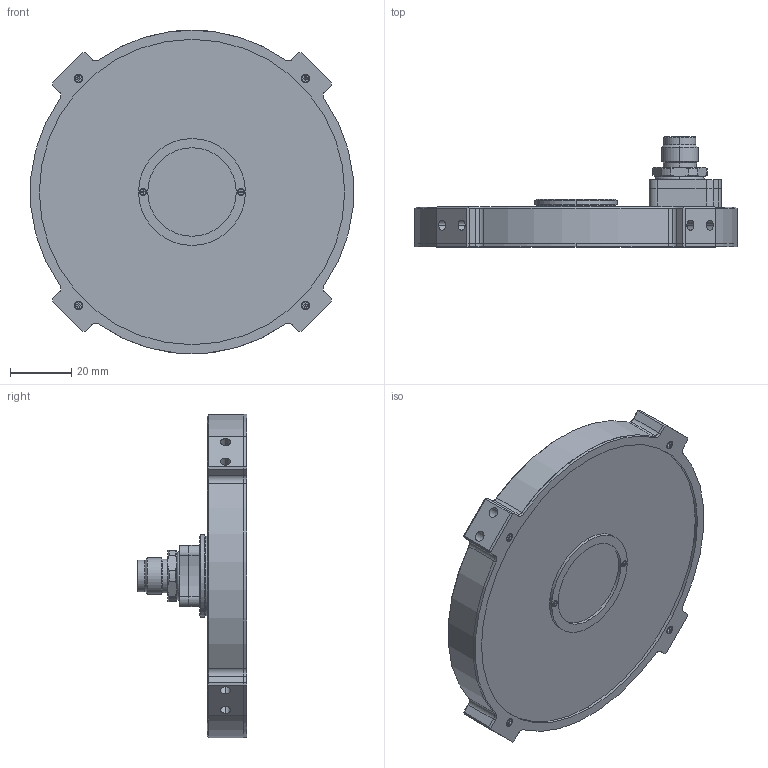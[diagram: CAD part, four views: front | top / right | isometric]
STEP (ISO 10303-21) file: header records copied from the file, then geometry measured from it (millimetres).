
FILE_DESCRIPTION (( 'STEP AP214' ), '1' );
FILE_NAME ('VRBP-10035-PL_Drawing_L1214A-A00102.SLDPRT.STEP', '2024-07-12T07:09:06', ( '' ), ( '' ), 'SwSTEP 2.0', 'SolidWorks 2018', '' );
FILE_SCHEMA (( 'AUTOMOTIVE_DESIGN' ));
Length unit declared in the file: millimetre
Products named in the file (1): VRBP-10035-PL_Drawing_L1214A-A00102.SLDPRT
Bounding box: 105.6 x 36 x 106 mm (x, y, z)
Surface area: 28743.2 mm2 (no closed solid volume)
Topology: 0 solids, 29 shells, 467 faces, 1382 edges, 934 vertices
Faces by surface type: plane 248, cylinder 139, cone 68, sphere 10, torus 2
Entity records: 20455 total; most frequent: CARTESIAN_POINT 2856, DIRECTION 2723, ORIENTED_EDGE 2250, EDGE_CURVE 1362, VERTEX_POINT 924, AXIS2_PLACEMENT_3D 919, VECTOR 885, LINE 885
